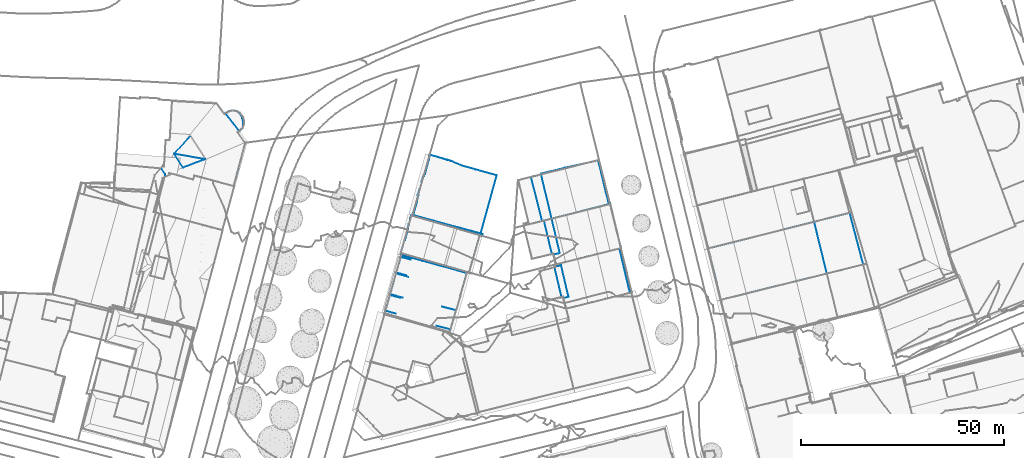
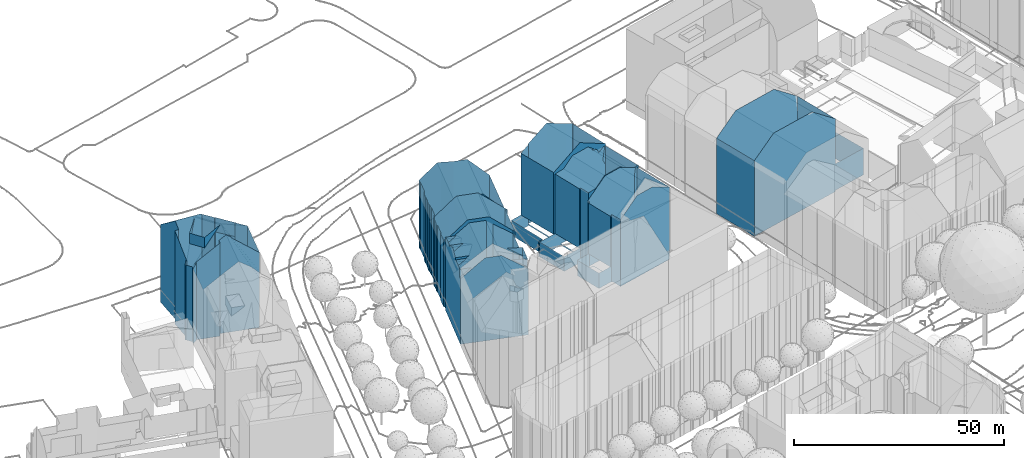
# Not in any storey, part 53 of 494: 8 walls.
"""IFC2X3 model written with IfcOpenShell, lengths in metres."""

from ifc_helpers import new_model, si_unit, frame, origin_with_axes, place, context, subcontext, project, faceted_brep, element, save


model = new_model("IFC2X3")

# Units and contexts
model_context = context("Model", 3, precision=1e-05, world=origin_with_axes())
body_context = subcontext(model_context, "Body", "Model", "MODEL_VIEW")
ifc_project = project(units=[si_unit("AREAUNIT", "SQUARE_METRE"), si_unit("LENGTHUNIT", "METRE")], contexts=[model_context])

# Walls
wall_1_placement = place(None, frame((64.667732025, 395.1844160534, 537.6027), z_axis=(0.0, 0.0, 1.0), x_axis=(1.0, 0.0, 0.0)))
element("IfcWall", 1, at=wall_1_placement, Name="Wall 0", context=body_context, shape_type="Brep", body=[
    faceted_brep([(4.5400000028, 3.8125, 21.8939), (1.3420000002, 4.691399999, 21.8939), (1.3420000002, 4.691399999, 19.0922), (2.7980000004, 9.7821999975, 21.8939), (5.943, 8.9188999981, 21.8939), (2.7980000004, 9.7821999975, 19.1392), (18.5920000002, 4.3182999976, 9.5821), (18.6610000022, 4.2949000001, 19.1112), (18.5920000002, 4.3182999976, 0.0), (18.6610000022, 4.2949000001, 0.0), (17.6489000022, 1.0409999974, 19.1962), (17.7279000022, 1.0175999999, 0.0), (17.7279000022, 1.0175999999, 19.1352), (17.6490000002, 1.0409999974, 0.0), (4.0940000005, 14.311499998, 19.1812), (9.7730000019, 12.7919999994, 0.0), (4.0940000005, 14.311499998, 0.0), (14.7220000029, 1.4853000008, 21.393), (13.8360000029, 1.7118999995, 22.0739), (17.5660000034, 0.7548999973, 21.58), (16.9110000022, 0.9228000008, 19.7051), (17.5660000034, 0.7548999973, 19.2002), (14.6000000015, -3.563500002, 20.4831), (16.1920000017, -3.9717000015, 19.2552), (16.1920000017, -3.9717000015, 21.5999), (12.5160000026, -3.0283000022, 22.0869), (1.2870000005, 4.498999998, 21.381), (3.9030000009, 3.7802999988, 21.381), (1.2870000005, 4.498999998, 19.0902), (2.8380000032, -0.0956999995, 21.381), (0.1810000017, 0.6338, 21.381), (0.1810000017, 0.6338, 19.0542), (3.9660000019, 13.8641999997, 21.381), (6.4830000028, 13.1719000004, 21.382), (3.9660000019, 13.8641999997, 19.1772), (5.4240000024, 9.3222000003, 21.381), (2.8680000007, 10.0253999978, 21.381), (2.8680000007, 10.0253999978, 19.1412), (20.200000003, 9.8876999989, 0.0), (20.200000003, 9.8876999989, 19.1072), (18.8600000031, 5.245099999, 0.0), (18.8600000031, 5.245099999, 19.1552), (18.5920000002, 4.3182999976, 19.1652), (15.995000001, -4.6484999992, -0.0001), (15.995000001, -4.6484999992, 19.2631), (13.6960000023, 11.6972000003, 0.0), (13.6960000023, 11.6972000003, 24.1487), (14.9600000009, 11.3524999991, 23.1708), (14.9600000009, 11.3524999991, 0.0), (0.0, 0.0, 0.0), (0.0, 0.0, 19.0482), (0.3230000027, 1.1279000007, 21.546), (1.1180000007, 3.9091999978, 21.557), (2.001000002, 6.9941000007, 0.0), (2.7980000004, 9.7821999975, 0.0), (2.0560000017, 7.1875, 23.1738), (3.0410000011, 10.6307999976, 21.579), (3.7740000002, 13.1923999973, 21.589), (14.5840000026, -4.2382999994, 0.0), (9.7090000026, -2.8203000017, 0.0), (5.7960000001, -1.683600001, 0.0), (14.5840000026, -4.2382999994, 20.3611), (9.7090000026, -2.8203000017, 24.1487), (5.7960000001, -1.683600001, 24.1487), (9.7730000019, 12.7919999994, 24.1487)], [[[0, 1, 2]], [[3, 4, 5]], [[6, 7, 8]], [[7, 9, 8]], [[10, 11, 12]], [[10, 13, 11]], [[7, 12, 9]], [[12, 11, 9]], [[14, 15, 16]], [[17, 18, 19]], [[20, 19, 21]], [[19, 20, 17]], [[22, 23, 24]], [[25, 22, 24]], [[26, 27, 28]], [[29, 30, 31]], [[32, 33, 34]], [[35, 36, 37]], [[6, 38, 39]], [[6, 40, 38]], [[39, 41, 6]], [[40, 6, 8]], [[41, 42, 6]], [[13, 10, 21]], [[23, 19, 24]], [[23, 13, 21]], [[13, 23, 43]], [[43, 23, 44]], [[21, 19, 23]], [[45, 15, 46]], [[46, 47, 45]], [[47, 39, 48]], [[38, 48, 39]], [[47, 48, 45]], [[31, 49, 50]], [[30, 51, 31]], [[51, 52, 28]], [[49, 31, 28]], [[28, 52, 26]], [[51, 28, 31]], [[53, 28, 2]], [[5, 16, 54]], [[2, 54, 53]], [[53, 49, 28]], [[54, 2, 5]], [[55, 2, 1]], [[3, 5, 55]], [[55, 5, 2]], [[37, 36, 56]], [[56, 57, 34]], [[32, 34, 57]], [[5, 37, 16]], [[34, 14, 16]], [[34, 37, 56]], [[37, 34, 16]], [[43, 44, 58]], [[44, 59, 58]], [[60, 59, 61]], [[59, 44, 61]], [[61, 62, 63]], [[50, 49, 60]], [[50, 61, 63]], [[50, 60, 61]], [[6, 42, 7]], [[64, 15, 14]], [[15, 64, 46]]]),
])
wall_2_placement = place(None, frame((102.7887320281, 405.5477160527, 537.9757), z_axis=(0.0, 0.0, 1.0), x_axis=(1.0, 0.0, 0.0)))
element("IfcWall", 2, at=wall_2_placement, Name="Wall 0", context=body_context, shape_type="Brep", body=[
    faceted_brep([(5.4069999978, -6.3467000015, 19.2121), (3.6710000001, 0.9648000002, 4.4825), (5.4069999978, -6.3467000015, 4.4825), (19.6569999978, 5.5711999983, 21.2059), (22.2419999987, -5.3194000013, 21.2059), (19.6569999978, 5.5711999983, 0.1519), (1.7809999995, -7.2294999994, 4.4825), (0.0, 0.0, 4.4825), (1.7809999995, -7.2294999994, 0.0), (7.1319999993, -6.3047000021, 0.1519), (5.9039999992, -6.5967000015, 0.0), (7.1319999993, -6.3047000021, 0.0), (5.2899999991, 1.4569999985, 0.152), (5.2899999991, 1.4569999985, 0.0), (3.9609999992, 1.1415999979, 0.152), (3.9609999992, 1.1415999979, 0.0), (3.9849999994, 1.0478000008, 19.4691), (3.9849999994, 1.0478000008, 0.0), (3.8389999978, 1.6220000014, 19.4611), (3.8389999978, 1.6220000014, 0.152), (0.0, 0.0, 0.0), (3.6710000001, 0.9657999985, 19.2121), (5.8159999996, -6.2481000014, 19.5451), (5.8159999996, -6.2481000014, 0.0), (16.7939999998, -6.6768000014, 23.9257), (6.5639999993, -9.2256000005, 19.5771), (16.7939999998, -6.6768000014, 0.1519), (22.2419999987, -5.3194000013, 0.1519), (11.8929999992, -7.8984999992, 23.9257), (6.5639999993, -9.2256000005, 0.1519), (11.8929999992, -7.8984999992, 0.1519), (9.3090000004, 2.9882000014, 23.9257), (9.3090000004, 2.9882000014, 0.152), (14.2089999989, 4.2109000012, 23.9257), (14.2089999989, 4.2109000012, 0.152), (5.9039999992, -6.5967000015, 0.1519)], [[[0, 1, 2]], [[3, 4, 5]], [[6, 7, 8]], [[9, 10, 11]], [[12, 9, 13]], [[14, 13, 15]], [[16, 14, 17]], [[14, 16, 18]], [[17, 14, 15]], [[19, 14, 18]], [[17, 20, 1]], [[1, 20, 7]], [[1, 21, 16]], [[1, 16, 17]], [[22, 0, 2]], [[22, 2, 23]], [[2, 8, 23]], [[8, 2, 6]], [[4, 24, 25]], [[26, 27, 4]], [[25, 24, 28]], [[25, 29, 30]], [[30, 26, 25]], [[25, 26, 4]], [[18, 31, 3]], [[32, 19, 18]], [[3, 31, 33]], [[5, 34, 18]], [[32, 18, 34]], [[18, 3, 5]], [[35, 29, 25]], [[35, 22, 23]], [[22, 35, 25]], [[35, 23, 10]], [[21, 1, 0]], [[4, 27, 5]], [[7, 20, 8]], [[35, 10, 9]], [[9, 11, 13]], [[12, 13, 14]]]),
])
wall_3_placement = place(None, frame((98.9137320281, 416.7703160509, 537.9817), z_axis=(0.0, 0.0, 1.0), x_axis=(1.0, 0.0, 0.0)))
element("IfcWall", 3, at=wall_3_placement, Name="Wall 0", context=body_context, shape_type="Brep", body=[
    faceted_brep([(6.9159999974, -6.990199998, 21.6039), (4.9659999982, 1.2246000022, 21.6039), (6.9159999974, -6.990199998, 4.2916), (21.1049999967, 5.5108000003, 21.6209), (21.1659999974, 5.5244000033, 0.4299), (21.1049999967, 5.5108000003, 0.4299), (21.1659999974, 5.5244000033, 21.6179), (21.1469999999, 5.3467000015, 21.6209), (21.1469999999, 5.3467000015, 16.3234), (21.1469999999, 5.3467000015, 0.4299), (23.8599999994, -5.0223999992, 0.4299), (23.8599999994, -5.0223999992, 21.6099), (23.9799999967, -5.5399999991, 21.6099), (23.9799999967, -5.5399999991, 0.4299), (2.0399999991, -8.1669999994, 4.2916), (0.0, 0.0, 4.2916), (2.0399999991, -8.1669999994, 0.0), (8.8509999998, -6.753899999, 0.4299), (7.3609999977, -7.1074000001, 0.0), (8.8509999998, -6.753899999, 0.0), (6.8469999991, 1.6904000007, 0.4299), (6.8469999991, 1.6904000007, 0.0), (7.3090000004, -6.8954999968, 0.0), (7.3090000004, -6.8954999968, 21.6239), (21.2329999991, 5.2588, 21.6179), (21.2329999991, 5.2588, 0.4299), (23.7749999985, -5.0399999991, 0.4299), (23.7749999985, -5.0399999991, 21.6139), (7.3609999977, -7.1074000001, 0.4299), (7.9560000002, -9.5361000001, 0.4299), (7.9560000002, -9.5361000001, 21.6249), (10.2969999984, -8.9520999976, 0.4299), (21.1979999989, -6.2333999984, 21.7419), (18.1219999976, -7.0009999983, 24.1427), (10.2579999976, -8.9628999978, 21.7419), (13.0439999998, -8.2675999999, 24.1427), (5.2879999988, 1.3047000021, 0.0), (0.0, 0.0, 0.0), (4.9659999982, 1.2246000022, 4.2916), (7.680999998, 1.8965000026, 0.4299), (5.2879999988, 1.3037, 21.6199), (10.0669999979, 2.4883000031, 0.4299), (10.0669999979, 2.4883000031, 21.7419), (7.680999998, 1.8965000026, 21.7419), (10.0669999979, 2.4893000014, 23.7977), (12.8999999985, 3.2256000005, 0.4299), (18.243999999, 4.5996000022, 0.4299), (21.1469999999, 5.3467000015, 11.0249), (18.6039999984, 4.692400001, 0.4299), (10.4659999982, 2.5938000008, 24.1427), (12.8999999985, 3.2256000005, 24.1427), (18.243999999, 4.5996000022, 22.0239), (15.5339999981, 3.9024000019, 24.1427), (18.6039999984, 4.692400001, 21.7419)], [[[0, 1, 2]], [[3, 4, 5]], [[4, 3, 6]], [[7, 3, 8]], [[3, 5, 9]], [[10, 11, 12]], [[13, 10, 12]], [[14, 15, 16]], [[17, 18, 19]], [[20, 17, 21]], [[22, 23, 2]], [[2, 23, 0]], [[2, 14, 16]], [[2, 16, 22]], [[6, 24, 4]], [[25, 4, 24]], [[24, 26, 25]], [[27, 26, 24]], [[28, 29, 30]], [[28, 23, 22]], [[23, 28, 30]], [[28, 22, 18]], [[31, 13, 12]], [[32, 31, 12]], [[32, 33, 29]], [[34, 33, 35]], [[31, 32, 29]], [[34, 30, 29]], [[33, 34, 29]], [[36, 37, 38]], [[20, 36, 38]], [[20, 21, 36]], [[38, 39, 20]], [[15, 38, 37]], [[1, 40, 38]], [[38, 41, 39]], [[41, 38, 42]], [[43, 42, 38]], [[42, 43, 44]], [[38, 40, 43]], [[45, 41, 42]], [[46, 45, 47]], [[47, 9, 48]], [[46, 47, 48]], [[45, 42, 47]], [[49, 50, 42]], [[51, 42, 50]], [[51, 50, 52]], [[42, 8, 47]], [[53, 7, 8]], [[51, 53, 8]], [[51, 8, 42]], [[44, 49, 42]], [[1, 38, 2]], [[27, 11, 26]], [[11, 10, 26]], [[47, 8, 3]], [[3, 9, 47]], [[15, 37, 16]], [[28, 18, 17]], [[17, 19, 21]]]),
])
wall_4_placement = place(None, frame((97.5747320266, 427.9617160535, 537.9817), z_axis=(0.0, 0.0, 1.0), x_axis=(1.0, 0.0, 0.0)))
element("IfcWall", 4, at=wall_4_placement, Name="Wall 0", context=body_context, shape_type="Brep", body=[
    faceted_brep([(2.5130000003, -10.4209000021, 4.2916), (0.0, 0.0, 4.2916), (2.5130000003, -10.4209000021, 0.0), (2.2910000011, -10.4756000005, 4.2916), (2.2910000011, -10.4756000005, 0.0), (2.3269999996, -10.6279000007, 4.2916), (2.3269999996, -10.6279000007, 0.0), (1.262000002, -10.879900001, 4.2916), (1.262000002, -10.879900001, 0.0), (1.3359999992, -11.1777000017, 4.2916), (1.3359999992, -11.1777000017, 0.0), (5.5989999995, 1.3984999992, 0.407), (8.1860000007, -9.5, 0.4069), (5.5989999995, 1.3984999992, 0.0), (5.5989999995, 1.3983999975, 17.2984), (5.5989999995, 1.3983999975, 23.5957), (5.5518999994, 1.5956999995, 0.407), (5.5520000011, 1.5956999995, 23.5977), (11.4310000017, 3.0196000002, 0.407), (17.7349999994, 4.4296999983, 16.9654), (17.7349999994, 4.4296999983, 0.407), (21.4979999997, -2.8007999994, 22.4478), (22.2230000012, -5.6592000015, 0.4069), (21.4979999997, -2.8007999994, 0.4069), (19.7010000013, 4.6054999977, 22.5858), (19.7010000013, 4.6054999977, 0.407), (19.7170000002, 4.9247999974, 22.5438), (19.7930000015, 4.6279999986, 0.407), (19.7170000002, 4.9247999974, 0.407), (22.4250000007, -5.6084000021, 22.2679), (22.4860000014, -5.8447000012, 0.4069), (22.4250000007, -5.6084000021, 0.4069), (22.4860000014, -5.8447000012, 22.2619), (5.8550000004, -10.076100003, 22.2619), (3.1070000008, 0.7763999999, 22.2619), (5.8550000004, -10.076100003, 4.2916), (3.1070000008, 0.7763999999, 4.2916), (0.0, 0.0, 0.0), (4.6829999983, 1.1689999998, 23.1048), (17.7349999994, 4.4296999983, 23.5537), (19.6849999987, 4.9169999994, 22.5608), (19.5830000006, -6.5918000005, 0.4069), (14.2390000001, -7.9658000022, 0.4069), (19.5830000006, -6.5918000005, 23.8397), (11.4050000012, -8.6982000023, 0.4069), (14.2390000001, -7.9658000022, 26.7444), (11.4050000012, -8.6982000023, 25.2266), (10.313000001, -8.9736000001, 24.6426), (10.313000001, -8.9736000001, 0.4069), (6.6270000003, -9.8877000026, 22.6738), (8.1860000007, -9.5, 0.0), (6.6270000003, -9.8867000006, 0.0), (11.4310000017, 3.0196000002, 26.7444), (22.2230000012, -5.6592000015, 22.3778), (19.7930000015, 4.6279999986, 22.5358)], [[[0, 1, 2]], [[3, 0, 4]], [[5, 3, 6]], [[7, 5, 8]], [[9, 7, 10]], [[11, 12, 13]], [[14, 15, 16]], [[11, 14, 16]], [[17, 18, 16]], [[19, 20, 18]], [[21, 22, 23]], [[24, 21, 25]], [[21, 23, 25]], [[26, 27, 28]], [[29, 30, 31]], [[30, 29, 32]], [[33, 34, 35]], [[1, 36, 37]], [[37, 11, 13]], [[11, 37, 36]], [[36, 14, 11]], [[38, 15, 14]], [[14, 36, 34]], [[14, 34, 38]], [[39, 40, 19]], [[26, 19, 40]], [[19, 28, 20]], [[19, 26, 28]], [[30, 32, 41]], [[42, 41, 32]], [[43, 44, 42]], [[42, 32, 43]], [[43, 45, 46]], [[47, 48, 44]], [[47, 43, 46]], [[47, 44, 43]], [[47, 49, 35]], [[12, 48, 35]], [[47, 35, 48]], [[35, 49, 33]], [[35, 9, 10]], [[50, 12, 51]], [[10, 51, 35]], [[51, 12, 35]], [[1, 37, 2]], [[0, 2, 4]], [[3, 4, 6]], [[5, 6, 8]], [[7, 8, 10]], [[12, 50, 13]], [[15, 17, 16]], [[52, 18, 17]], [[39, 18, 52]], [[39, 19, 18]], [[22, 53, 29]], [[29, 31, 22]], [[53, 22, 21]], [[24, 27, 54]], [[24, 25, 27]], [[54, 27, 26]], [[34, 36, 35]]]),
])
wall_5_placement = place(None, frame((71.5077320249, 419.4158160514, 538.2757), z_axis=(0.0, 0.0, 1.0), x_axis=(1.0, 0.0, 0.0)))
element("IfcWall", 5, at=wall_5_placement, Name="Wall 0", context=body_context, shape_type="Brep", body=[
    faceted_brep([(10.3780000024, -2.8768999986, 23.8407), (5.2630000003, -1.4716999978, 23.8407), (10.3780000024, -2.8768999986, 0.0), (12.2180000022, 12.0987000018, 23.8407), (15.4800000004, 11.1905000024, 23.8407), (12.2180000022, 12.0987000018, 0.0), (10.9740000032, -3.0537, 23.8627), (10.9740000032, -3.0537, 0.0), (11.5430000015, -3.1571999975, 23.8407), (11.5430000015, -3.1571999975, 0.0), (14.3450000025, -3.9266999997, 20.903), (14.3450000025, -3.9266999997, 0.0), (20.7310000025, 9.7285000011, 18.3702), (15.4800000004, 11.1905000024, 0.0), (16.7580000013, -4.5887999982, 18.3702), (16.7580000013, -4.5887999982, 0.0), (20.7310000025, 9.7285000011, 0.0), (2.9600000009, 10.0479000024, 0.0), (2.9600000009, 10.0479000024, 19.5221), (3.057, 10.0225000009, 0.0), (2.8170000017, 9.5780999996, 0.0), (2.8170000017, 9.5780999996, 19.5111), (2.6860000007, 9.6192000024, 19.3801), (2.6860000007, 9.6192000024, 0.0), (2.2640000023, 8.1553000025, 19.3651), (2.2640000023, 8.1553000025, 0.0), (2.3280000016, 8.1416000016, 0.0), (1.813000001, 6.3408000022, 19.4121), (2.3280000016, 8.1416000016, 19.4271), (1.813000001, 6.3408000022, 0.0), (1.7470000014, 6.3613000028, 0.0), (1.7470000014, 6.3614000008, 19.3461), (1.3260000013, 4.9141000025, 19.3271), (1.3260000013, 4.9141000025, 0.0), (1.4710000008, 4.8701000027, 19.4721), (1.4710000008, 4.8701000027, 0.0), (1.0390000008, 3.3311000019, 19.4661), (1.0390000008, 3.3311000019, 0.0), (1.1460000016, 3.3018000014, 0.0), (0.3550000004, 0.5391000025, 0.0), (0.3550000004, 0.5391000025, 19.5481), (1.1460000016, 3.3018000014, 19.5721), (0.2380000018, 0.5773000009, 0.0), (0.2380000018, 0.5771999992, 19.4311), (0.1120000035, 0.1436000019, 19.4251), (0.1120000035, 0.1436000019, 0.0), (0.0480000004, 0.1641000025, 19.3611), (0.0480000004, 0.1641000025, 0.0), (0.0, 0.0, 0.0), (0.0, 0.0, 19.3591), (3.4560000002, -0.990199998, 22.7848), (3.4560000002, -0.990199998, 0.0), (3.057, 10.0225000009, 19.6181), (3.2380000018, 10.6709000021, 0.0), (4.137000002, 13.8877000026, 19.6361), (4.0730000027, 13.9101999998, 19.5711), (4.137000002, 13.8877000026, 0.0), (3.2350000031, 10.6621000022, 19.6191), (3.6720000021, 12.2246000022, 19.6271), (4.2300000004, 14.7851999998, 19.4951), (6.1230000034, 14.2393000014, 21.392), (4.2300000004, 14.7851999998, 0.0), (8.5650000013, 13.5342000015, 23.8377), (8.5660000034, 13.5342000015, 0.0), (4.2270000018, 14.438500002, 0.0), (4.2270000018, 14.438500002, 19.5801), (4.1350000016, 14.4649000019, 19.4881), (4.0730000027, 13.9101999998, 0.0), (4.4660000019, -1.253899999, 23.7797), (4.4660000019, -1.253899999, 0.0), (8.5710000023, 13.5322000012, 23.8377), (5.2630000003, -1.4716999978, 0.0), (9.4630000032, 13.2743999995, 0.0), (9.0840000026, 13.3838, 23.8377), (9.4630000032, 13.2743999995, 23.8387), (4.1350000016, 14.4649000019, 0.0)], [[[0, 1, 2]], [[3, 4, 5]], [[6, 0, 7]], [[8, 7, 9]], [[10, 9, 11]], [[4, 12, 13]], [[14, 11, 15]], [[12, 14, 16]], [[17, 18, 19]], [[20, 21, 18]], [[18, 17, 20]], [[21, 20, 22]], [[22, 20, 23]], [[22, 23, 24]], [[24, 23, 25]], [[24, 25, 26]], [[27, 28, 29]], [[27, 30, 31]], [[27, 29, 30]], [[32, 31, 33]], [[31, 30, 33]], [[34, 32, 33]], [[34, 35, 36]], [[36, 35, 37]], [[36, 37, 38]], [[39, 40, 38]], [[38, 40, 41]], [[42, 43, 40]], [[44, 42, 45]], [[44, 45, 46]], [[46, 45, 47]], [[48, 49, 47]], [[46, 47, 49]], [[50, 48, 51]], [[49, 48, 50]], [[19, 52, 53]], [[54, 55, 56]], [[53, 57, 58]], [[54, 56, 58]], [[58, 56, 53]], [[59, 60, 61]], [[60, 62, 61]], [[62, 63, 61]], [[64, 65, 66]], [[55, 64, 67]], [[68, 50, 69]], [[62, 70, 63]], [[1, 68, 71]], [[63, 70, 72]], [[72, 73, 74]], [[72, 74, 3]], [[5, 72, 3]], [[1, 71, 2]], [[4, 13, 5]], [[0, 2, 7]], [[6, 7, 8]], [[8, 9, 10]], [[12, 16, 13]], [[10, 11, 14]], [[14, 15, 16]], [[52, 19, 18]], [[24, 26, 28]], [[28, 26, 29]], [[35, 34, 33]], [[38, 41, 36]], [[42, 40, 39]], [[42, 44, 43]], [[57, 53, 52]], [[55, 67, 56]], [[75, 66, 59]], [[59, 61, 75]], [[66, 75, 64]], [[65, 64, 55]], [[50, 51, 69]], [[68, 69, 71]], [[70, 73, 72]]]),
])
wall_6_placement = place(None, frame((68.6347320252, 410.0320160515, 538.0377), z_axis=(0.0, 0.0, 1.0), x_axis=(1.0, 0.0, 0.0)))
element("IfcWall", 6, at=wall_6_placement, Name="Wall 0", context=body_context, shape_type="Brep", body=[
    faceted_brep([(14.4160000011, 6.2266000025, 23.6277), (17.2180000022, 5.4571000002, 21.141), (14.4160000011, 6.2266000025, 0.0), (13.8470000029, 6.3300999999, 24.1007), (13.8470000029, 6.3300999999, 0.0), (16.2340000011, -4.9580000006, 0.0), (16.2850000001, -4.7802000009, 0.0), (16.2850000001, -4.7802000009, 19.5891), (16.7609999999, -4.9149999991, 19.1652), (16.7609999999, -4.9149999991, 0.0), (16.7870000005, -4.8231999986, 0.0), (19.4299999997, 4.3506000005, 0.0), (19.4299999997, 4.3506000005, 19.0632), (18.1070000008, -0.240199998, 19.1142), (16.7870000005, -4.8231999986, 19.1652), (20.0100000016, 4.1856000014, 0.0), (20.0100000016, 4.1856000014, 18.5462), (20.1390000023, 4.6543000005, 18.5462), (20.1390000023, 4.6543000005, 0.0), (17.2180000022, 5.4571000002, 0.0), (10.9930000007, -3.495099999, 0.0), (16.2340000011, -4.9580000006, 19.5911), (10.9930000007, -3.495099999, 24.2517), (13.251000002, 6.5069000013, 24.6556), (13.251000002, 6.5069000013, 0.0), (10.5390000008, -3.375, 0.0), (7.3390000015, 8.129900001, 24.0177), (8.1359999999, 7.9121000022, 0.0), (7.3390000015, 8.129900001, 0.0), (6.3289999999, 8.3936000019, 23.0228), (6.3289999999, 8.3936000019, 0.0), (8.1359999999, 7.9121000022, 24.6556), (10.5390000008, -3.375, 24.6556), (5.4290000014, -1.9501999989, 24.6556), (0.2589999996, -0.0742000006, 19.6161), (0.2589999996, -0.0742000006, 0.0), (0.1270000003, -0.5350999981, 19.6071), (0.1270000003, -0.5350999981, 0.0), (5.4290000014, -1.9501999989, 0.0), (0.0, 0.0, 19.3682), (0.2910000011, 1.0303000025, 19.3851), (0.0, 0.0, 0.0), (0.8940000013, 3.1631000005, 0.0), (1.9340000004, 7.0479000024, 19.3382), (1.745000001, 6.4053000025, 0.0), (1.745000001, 6.4053000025, 19.3312), (1.8060000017, 6.3877000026, 19.3912), (1.8060000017, 6.3877000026, 0.0), (1.0260000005, 3.1289000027, 0.0), (1.825000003, 5.9942000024, 19.5111), (1.825000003, 5.9942000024, 0.0), (1.0260000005, 3.1289000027, 19.5171), (2.8729999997, 9.3838, 19.5971), (2.8729999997, 9.3838, 0.0), (2.8010000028, 9.1338, 19.5951), (2.8010000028, 9.1338, 0.0), (2.5300000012, 9.2118999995, 0.0), (2.5300000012, 9.2118999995, 19.3272), (2.3420000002, 8.5284000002, 19.3302), (2.3420000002, 8.5284000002, 0.0), (2.4109000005, 8.5089000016, 19.3992), (1.9890000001, 7.0331999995, 0.0), (1.9890000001, 7.0331999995, 19.3932), (2.4110000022, 8.5088, 0.0), (1.9342, 7.0478000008, 0.0), (1.7060000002, 6.0303000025, 19.3922), (1.7060000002, 6.0303000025, 0.0), (0.8941000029, 3.1631000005, 19.3872)], [[[0, 1, 2]], [[3, 0, 4]], [[5, 6, 7]], [[8, 6, 9]], [[8, 9, 10]], [[11, 12, 13]], [[14, 10, 13]], [[10, 11, 13]], [[15, 16, 11]], [[12, 11, 16]], [[17, 16, 18]], [[16, 15, 18]], [[1, 17, 19]], [[20, 21, 22]], [[20, 5, 21]], [[23, 3, 24]], [[22, 25, 20]], [[26, 27, 28]], [[29, 28, 30]], [[31, 23, 27]], [[32, 33, 25]], [[34, 35, 36]], [[33, 37, 38]], [[37, 33, 36]], [[39, 40, 41]], [[40, 42, 41]], [[35, 34, 39]], [[39, 41, 35]], [[43, 44, 45]], [[46, 45, 47]], [[45, 44, 47]], [[48, 49, 50]], [[51, 48, 42]], [[30, 52, 29]], [[30, 53, 52]], [[52, 53, 54]], [[54, 53, 55]], [[56, 57, 54]], [[54, 55, 56]], [[58, 56, 59]], [[58, 59, 60]], [[61, 62, 63]], [[60, 63, 62]], [[62, 64, 43]], [[62, 61, 64]], [[1, 19, 2]], [[0, 2, 4]], [[21, 5, 7]], [[7, 6, 8]], [[14, 8, 10]], [[17, 18, 19]], [[3, 4, 24]], [[32, 25, 22]], [[31, 27, 26]], [[26, 28, 29]], [[23, 24, 27]], [[33, 38, 25]], [[36, 35, 37]], [[43, 64, 44]], [[46, 47, 65]], [[66, 65, 47]], [[49, 66, 50]], [[65, 66, 49]], [[48, 51, 49]], [[51, 42, 67]], [[67, 42, 40]], [[57, 56, 58]], [[60, 59, 63]]]),
])
wall_7_placement = place(None, frame((144.3067320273, 411.1453160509, 538.0286), z_axis=(0.0, 0.0, 1.0), x_axis=(1.0, 0.0, 0.0)))
element("IfcWall", 7, at=wall_7_placement, Name="Wall 0", context=body_context, shape_type="Brep", body=[
    faceted_brep([(34.7670000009, 8.7608000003, 8.0923), (38.129999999, -3.9598999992, 8.0922), (34.7670000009, 8.7608000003, 0.363), (1.0649999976, -4.2841999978, 21.9879), (0.5319999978, -2.1405999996, 21.9859), (0.5329999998, -2.1435000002, 0.0), (1.2159999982, -4.8876999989, 0.0), (2.129999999, -8.5653999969, 0.0), (1.5980000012, -6.4247999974, 21.9889), (0.0, 0.0, 16.4875), (0.0, 0.0, 0.0), (0.0, 0.0, 5.4915), (0.0, 0.0, 10.99), (3.1160000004, -12.6327999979, 21.9749), (2.3849999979, -9.6181999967, 21.9869), (3.1160000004, -12.6327999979, 16.4775), (3.1160000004, -12.6327999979, 0.0), (3.1160000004, -12.6327999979, 10.979), (2.6229999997, -10.5995999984, 0.0), (26.0419999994, 6.5537, 0.363), (29.1799999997, -6.1757999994, 0.0), (26.0399999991, 6.5615000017, 0.0), (26.0399999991, 6.5615000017, 21.128), (29.1799999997, -6.1757999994, 21.128), (26.0419999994, 6.5537, 8.0923), (6.1660000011, 1.5518000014, 0.0), (0.0, 0.0, 21.9849), (2.7709999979, 0.697300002, 24.1957), (18.5089999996, 4.6582000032, 0.0), (2.7709999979, 0.697300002, 0.0), (20.2540000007, 5.0976999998, 0.0), (5.0159999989, 1.2627000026, 25.9916), (20.2540000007, 5.0976999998, 25.5776), (6.1799999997, 1.5557000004, 26.9195), (18.5089999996, 4.6582000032, 26.9195), (25.2320000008, 6.3516000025, 21.75), (25.2320000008, 6.3516000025, 0.0), (29.1799999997, -6.1757999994, 8.0922), (22.4479999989, -7.8436999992, 26.2985), (9.3079999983, -11.0986000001, 26.9195), (8.7689999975, -11.2324000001, 26.4905), (21.6400000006, -8.0438999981, 26.9194), (38.129999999, -3.9598999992, 0.363), (22.4479999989, -7.8436999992, 0.0), (29.1799999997, -6.1757999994, 0.363), (3.8379999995, -12.4530999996, 22.5509), (21.6400000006, -8.0438999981, 0.0), (3.8379999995, -12.4530999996, 0.0), (8.7689999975, -11.2324000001, 0.0), (9.3079999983, -11.0986000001, 0.0), (2.129999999, -8.5653999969, 21.9909)], [[[0, 1, 2]], [[3, 4, 5]], [[6, 7, 8]], [[4, 9, 5]], [[6, 3, 5]], [[3, 6, 8]], [[10, 5, 11]], [[11, 5, 12]], [[13, 14, 15]], [[16, 17, 18]], [[18, 17, 14]], [[18, 14, 7]], [[19, 20, 21]], [[22, 23, 24]], [[25, 11, 12]], [[9, 26, 27]], [[12, 9, 28]], [[9, 24, 28]], [[29, 10, 11]], [[29, 11, 25]], [[12, 28, 25]], [[30, 28, 24]], [[31, 9, 27]], [[32, 31, 33]], [[32, 33, 34]], [[24, 32, 35]], [[31, 32, 24]], [[24, 35, 22]], [[36, 19, 21]], [[19, 36, 24]], [[24, 0, 2]], [[24, 2, 19]], [[30, 24, 36]], [[24, 9, 31]], [[37, 23, 38]], [[39, 40, 38]], [[39, 38, 41]], [[37, 38, 40]], [[42, 1, 37]], [[43, 44, 37]], [[43, 20, 44]], [[44, 42, 37]], [[15, 37, 40]], [[45, 13, 15]], [[46, 15, 17]], [[15, 46, 37]], [[47, 17, 16]], [[37, 46, 43]], [[17, 48, 49]], [[46, 17, 49]], [[47, 48, 17]], [[40, 45, 15]], [[1, 42, 2]], [[7, 50, 8]], [[26, 9, 4]], [[9, 12, 5]], [[15, 14, 17]], [[50, 7, 14]], [[44, 20, 19]], [[23, 37, 24]]]),
])
wall_8_placement = place(None, frame((9.491732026, 430.8250160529, 536.5319), z_axis=(0.0, 0.0, 1.0), x_axis=(1.0, 0.0, 0.0)))
element("IfcWall", 8, at=wall_8_placement, Name="Wall 0", context=body_context, shape_type="Brep", body=[
    faceted_brep([(19.4739999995, 1.0830000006, 21.9009), (18.754999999, -1.5976999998, 21.8499), (18.8330000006, -1.3057000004, 0.0), (20.8740000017, 6.3046999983, 21.9999), (20.1590000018, 3.6387000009, 21.9489), (20.8740000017, 6.3046999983, 5.4995), (20.8740000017, 6.3046999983, 0.0), (19.9210000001, 2.7509999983, 0.0), (18.0150000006, -4.3574000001, 16.2984), (18.0150000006, -4.3574000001, 5.2985), (18.0150000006, -4.3574000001, 10.798), (18.0150000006, -4.3574000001, 0.0), (19.4000000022, 9.1660000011, 21.7849), (19.1920000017, 9.0361000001, 21.9399), (19.1920000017, 9.0361000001, 0.0), (19.4000000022, 9.1660000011, 0.0), (19.4360000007, 9.192400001, 0.0), (16.6539999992, 12.7529000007, 17.6643), (19.4360000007, 9.192400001, 21.7569), (19.069000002, 9.6631000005, 17.6673), (16.0320000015, 13.5487999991, 21.8839), (16.0320000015, 13.5487999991, 17.6653), (19.3280000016, 9.3310999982, 2.4388), (16.0320000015, 13.5487999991, 0.0), (16.0320000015, 13.5487999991, 2.4388), (19.3280000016, 9.3310999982, 17.6663), (18.9730000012, 8.9248000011, 0.0), (8.3440000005, -1.7382999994, 27.1434), (8.0639999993, -2.7382999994, 27.1244), (8.3440000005, -1.7382999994, 0.0), (2.324000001, -1.4580000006, 22.6099), (1.0069999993, -2.1631000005, 21.7589), (2.324000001, -1.4580000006, 0.0), (2.1640000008, -1.1387000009, 22.4289), (2.1640000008, -1.1387000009, 0.0), (1.1950000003, -1.4287, 21.7589), (1.0069999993, -2.1631000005, 0.0), (0.2740000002, -0.0263999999, 21.7589), (1.1950000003, -1.4287, 0.0), (0.0, 0.0, 21.7589), (0.6740000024, 0.8017999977, 0.0), (0.0, 0.0, 0.0), (0.2740000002, -0.0263999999, 0.0), (1.2829999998, 6.9932000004, 27.1344), (2.2829999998, 6.932599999, 0.0), (1.2829999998, 6.9932000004, 0.0), (10.995000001, 2.2890999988, 28.3483), (5.561999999, 0.2705000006, 27.7614), (5.561999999, 0.2705000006, 24.7017), (10.995000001, 2.2890999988, 0.0), (10.995000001, 2.2890999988, 1.2759), (3.3640000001, 3.623999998, 0.0), (3.3640000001, 3.623999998, 1.2759), (5.561999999, 0.2705000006, 0.0), (5.561999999, 0.2705000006, 1.2759), (3.3640000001, 3.623999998, 27.7614), (7.3110000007, 7.9697000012, 28.3643), (3.3640000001, 3.623999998, 24.7017), (20.2259999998, 10.058600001, 17.6633), (20.2259999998, 10.058600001, 2.4388), (20.3399999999, 10.2763999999, 17.6633), (20.3399999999, 10.2763999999, 2.4388), (20.3900000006, 10.3964999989, 2.4388), (20.3900000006, 10.3964999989, 17.6633), (20.3900000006, 11.3935999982, 17.6633), (20.3900000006, 11.3935999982, 2.4388), (20.1750000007, 9.9785000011, 2.4388), (20.1750000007, 9.9785000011, 17.6643), (17.262000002, 14.1601999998, 17.6633), (17.5040000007, 14.1992000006, 17.6633), (17.262000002, 14.1600999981, 2.4388), (17.0250000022, 14.0986000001, 17.6633), (17.0250000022, 14.0986000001, 2.4388), (16.7939999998, 14.0175999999, 17.6633), (16.7939999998, 14.0175999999, 2.4388), (16.5710000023, 13.9160000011, 17.6633), (16.5710000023, 13.9160000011, 2.4388), (19.9900000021, 12.9101999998, 17.6633), (19.9900000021, 12.9101999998, 2.4388), (19.1649999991, 13.8779000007, 17.6633), (19.1649999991, 13.8779000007, 2.4388), (18.943, 13.9844000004, 17.6633), (18.943, 13.9844000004, 2.4388), (18.7140000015, 14.0731999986, 17.6633), (18.7140000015, 14.0731999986, 2.4388), (18.4790000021, 14.1415999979, 17.6633), (18.4790000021, 14.1415999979, 2.4388), (18.2380000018, 14.1884999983, 17.6633), (18.2380000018, 14.1884999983, 2.4388), (17.993999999, 14.2138999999, 17.6633), (17.993999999, 14.2138999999, 2.4388), (17.7490000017, 14.2177999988, 17.6633), (17.7490000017, 14.2177999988, 2.4388), (17.5040000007, 14.1992000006, 2.4388), (15.7930000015, 13.3262000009, 0.0), (15.7930000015, 13.3262000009, 22.0899), (15.9670000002, 13.498999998, 21.9359), (15.9670000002, 13.498999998, 13.6527), (14.8370000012, 14.6405999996, 22.0909), (13.8819999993, 15.9560999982, 0.0), (13.8819999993, 15.9560999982, 11.046), (13.8819999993, 15.9560999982, 5.5235), (18.9730000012, 8.9248000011, 16.5704), (18.9730000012, 8.9248000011, 22.0939), (20.7880000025, 6.4228999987, 22.0919), (13.8819999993, 15.9560999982, 16.5694), (2.8630000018, 16.5850000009, 22.6099), (13.449000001, 15.9804999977, 22.3169), (13.7170000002, 15.9648000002, 22.1739), (2.8630000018, 16.5850000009, 0.0), (13.8819999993, 15.9560999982, 22.0929), (13.449000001, 15.9804999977, 0.0), (13.7170000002, 15.9648000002, 0.0), (8.0639999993, -2.7382999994, 0.0), (4.6290000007, -1.8066000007, 24.4017), (4.6290000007, -1.8066000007, 0.0), (0.8139999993, 0.6112999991, 0.0), (0.6740000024, 0.8017999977, 22.4049), (0.8940000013, 0.5020000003, 0.0), (0.8139999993, 0.6112999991, 22.2729), (0.8940000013, 0.5020000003, 22.2769), (15.9670000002, 13.4990999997, 0.0), (16.3579999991, 13.7958999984, 2.4388), (16.3579999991, 13.7949000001, 17.6633), (16.5100000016, 13.8808999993, 17.6633), (16.5100000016, 13.8808999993, 2.4388), (11.6510000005, -2.634800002, 0.0), (10.9800000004, -2.4521000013, 0.0), (10.063000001, -2.2041000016, 0.0), (9.1000000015, -1.9433999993, 0.0), (18.0150000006, -4.3574000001, 21.7979), (11.6510000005, -2.634800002, 27.0744), (10.9800000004, -2.4521000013, 27.7854), (9.1119999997, -1.9463, 27.7254), (10.063000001, -2.2041000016, 28.4413), (8.938000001, -1.8993999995, 27.6144), (2.818, 15.8544999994, 23.1668), (2.2829999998, 6.932599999, 27.1404), (2.3909999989, 8.7285000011, 28.4983), (2.5260000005, 10.9765999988, 26.8235), (2.818, 15.8544999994, 0.0), (2.5260000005, 10.9765999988, 0.0), (2.3909999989, 8.7285000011, 0.0), (1.057, 3.2256000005, 0.0), (0.9070000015, 0.7216999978, 0.0), (1.137000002, 4.566399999, 0.0), (1.137000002, 4.566399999, 25.2996), (0.9070000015, 0.7216999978, 22.3619), (1.057, 3.2256000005, 24.2417)], [[[0, 1, 2]], [[3, 4, 5]], [[6, 5, 0]], [[0, 7, 6]], [[1, 8, 2]], [[0, 2, 7]], [[9, 2, 10]], [[9, 11, 2]], [[12, 13, 14]], [[15, 12, 14]], [[12, 15, 16]], [[17, 18, 19]], [[18, 17, 20]], [[20, 17, 21]], [[22, 23, 24]], [[25, 18, 16]], [[18, 25, 19]], [[22, 25, 16]], [[22, 16, 23]], [[14, 13, 26]], [[27, 28, 29]], [[30, 31, 32]], [[33, 32, 34]], [[31, 35, 36]], [[35, 37, 38]], [[39, 40, 41]], [[37, 39, 42]], [[43, 44, 45]], [[46, 47, 48]], [[49, 50, 51]], [[52, 51, 50]], [[53, 54, 50]], [[50, 49, 53]], [[52, 54, 51]], [[55, 56, 57]], [[47, 55, 48]], [[58, 59, 60]], [[60, 59, 61]], [[61, 62, 63]], [[60, 61, 63]], [[64, 62, 65]], [[62, 64, 63]], [[59, 58, 66]], [[58, 67, 66]], [[68, 69, 70]], [[71, 68, 72]], [[73, 71, 74]], [[75, 73, 76]], [[77, 64, 78]], [[79, 77, 80]], [[81, 79, 82]], [[83, 81, 84]], [[85, 83, 86]], [[87, 85, 88]], [[89, 87, 90]], [[91, 89, 92]], [[69, 91, 93]], [[94, 95, 96]], [[97, 94, 96]], [[98, 95, 99]], [[100, 98, 101]], [[95, 94, 99]], [[22, 67, 25]], [[22, 66, 67]], [[102, 103, 104]], [[102, 104, 3]], [[3, 5, 102]], [[102, 5, 26]], [[5, 6, 26]], [[105, 106, 107]], [[107, 108, 105]], [[106, 100, 109]], [[105, 108, 110]], [[100, 101, 109]], [[109, 101, 111]], [[112, 111, 101]], [[99, 112, 101]], [[100, 106, 105]], [[113, 28, 114]], [[113, 114, 33]], [[33, 115, 113]], [[115, 33, 34]], [[116, 40, 117]], [[118, 116, 117]], [[119, 120, 118]], [[117, 119, 118]], [[24, 121, 97]], [[23, 121, 24]], [[97, 96, 21]], [[20, 21, 96]], [[97, 122, 24]], [[21, 123, 122]], [[122, 97, 21]], [[123, 124, 122]], [[122, 124, 125]], [[125, 75, 76]], [[75, 125, 124]], [[11, 9, 126]], [[127, 9, 10]], [[9, 127, 126]], [[128, 127, 10]], [[129, 128, 10]], [[10, 29, 129]], [[130, 131, 8]], [[131, 132, 133]], [[133, 132, 134]], [[29, 8, 27]], [[8, 29, 10]], [[135, 27, 131]], [[27, 8, 131]], [[133, 135, 131]], [[136, 106, 137]], [[137, 138, 139]], [[137, 139, 136]], [[106, 109, 137]], [[140, 141, 137]], [[142, 44, 137]], [[142, 137, 141]], [[137, 109, 140]], [[143, 144, 120]], [[120, 145, 143]], [[45, 145, 120]], [[120, 144, 118]], [[43, 45, 146]], [[147, 148, 45]], [[120, 147, 45]], [[45, 148, 146]], [[4, 0, 5]], [[130, 8, 1]], [[8, 10, 2]], [[12, 16, 18]], [[13, 103, 102]], [[26, 13, 102]], [[28, 113, 29]], [[31, 36, 32]], [[30, 32, 33]], [[35, 38, 36]], [[37, 42, 38]], [[117, 40, 39]], [[39, 41, 42]], [[137, 44, 43]], [[54, 53, 51]], [[55, 57, 48]], [[69, 93, 70]], [[68, 70, 72]], [[71, 72, 74]], [[73, 74, 76]], [[64, 65, 78]], [[77, 78, 80]], [[79, 80, 82]], [[81, 82, 84]], [[83, 84, 86]], [[85, 86, 88]], [[87, 88, 90]], [[89, 90, 92]], [[91, 92, 93]], [[97, 121, 94]], [[110, 98, 105]], [[100, 105, 98]], [[98, 99, 101]]]),
])

save(model, "model.ifc")
